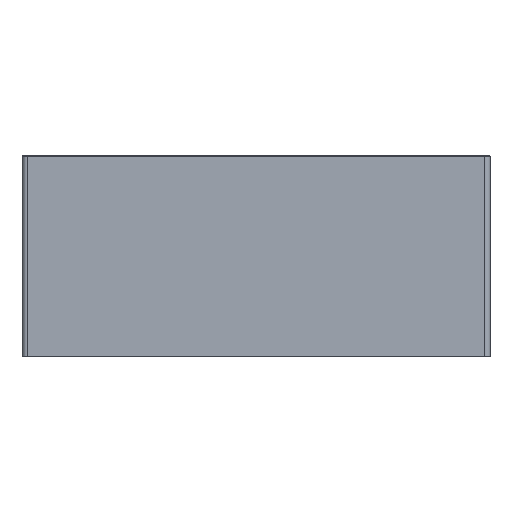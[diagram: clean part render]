
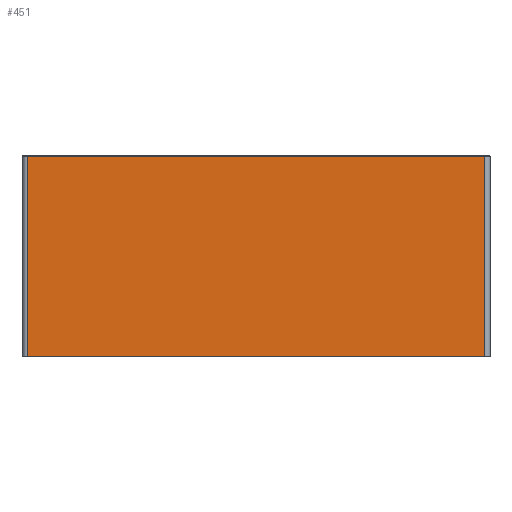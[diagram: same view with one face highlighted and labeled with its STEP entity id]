
A CAD part, front view. The second image highlights one B-rep face of the part: STEP entity #451.
In plain terms, the highlighted planar face has unit normal (0, -1, 0).
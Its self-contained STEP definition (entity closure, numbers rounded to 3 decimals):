
#88=CARTESIAN_POINT('',(1334.511,-1367.444,597.0));
#89=VERTEX_POINT('',#88);
#107=CARTESIAN_POINT('',(-27.489,-1367.444,597.0));
#108=VERTEX_POINT('',#107);
#116=CARTESIAN_POINT('',(-27.489,-1367.444,597.0));
#117=DIRECTION('',(1.0,0.0,0.0));
#118=VECTOR('',#117,1362.);
#119=LINE('',#116,#118);
#120=EDGE_CURVE('',#108,#89,#119,.T.);
#409=CARTESIAN_POINT('',(1334.511,-1367.444,0.0));
#410=VERTEX_POINT('',#409);
#411=CARTESIAN_POINT('',(1334.511,-1367.444,597.0));
#412=DIRECTION('',(0.0,0.0,-1.0));
#413=VECTOR('',#412,597.0);
#414=LINE('',#411,#413);
#415=EDGE_CURVE('',#89,#410,#414,.T.);
#428=CARTESIAN_POINT('',(1349.511,-1367.444,0.0));
#429=DIRECTION('',(0.0,-1.0,0.0));
#430=DIRECTION('',(0.0,0.0,-1.0));
#431=AXIS2_PLACEMENT_3D('',#428,#429,#430);
#432=PLANE('',#431);
#433=ORIENTED_EDGE('',*,*,#120,.F.);
#434=CARTESIAN_POINT('',(-27.489,-1367.444,0.0));
#435=VERTEX_POINT('',#434);
#436=CARTESIAN_POINT('',(-27.489,-1367.444,0.0));
#437=DIRECTION('',(0.0,0.0,1.0));
#438=VECTOR('',#437,597.0);
#439=LINE('',#436,#438);
#440=EDGE_CURVE('',#435,#108,#439,.T.);
#441=ORIENTED_EDGE('',*,*,#440,.F.);
#442=CARTESIAN_POINT('',(1334.511,-1367.444,0.0));
#443=DIRECTION('',(-1.0,0.0,0.0));
#444=VECTOR('',#443,1362.0);
#445=LINE('',#442,#444);
#446=EDGE_CURVE('',#410,#435,#445,.T.);
#447=ORIENTED_EDGE('',*,*,#446,.F.);
#448=ORIENTED_EDGE('',*,*,#415,.F.);
#449=EDGE_LOOP('',(#433,#441,#447,#448));
#450=FACE_OUTER_BOUND('',#449,.T.);
#451=ADVANCED_FACE('',(#450),#432,.T.);
